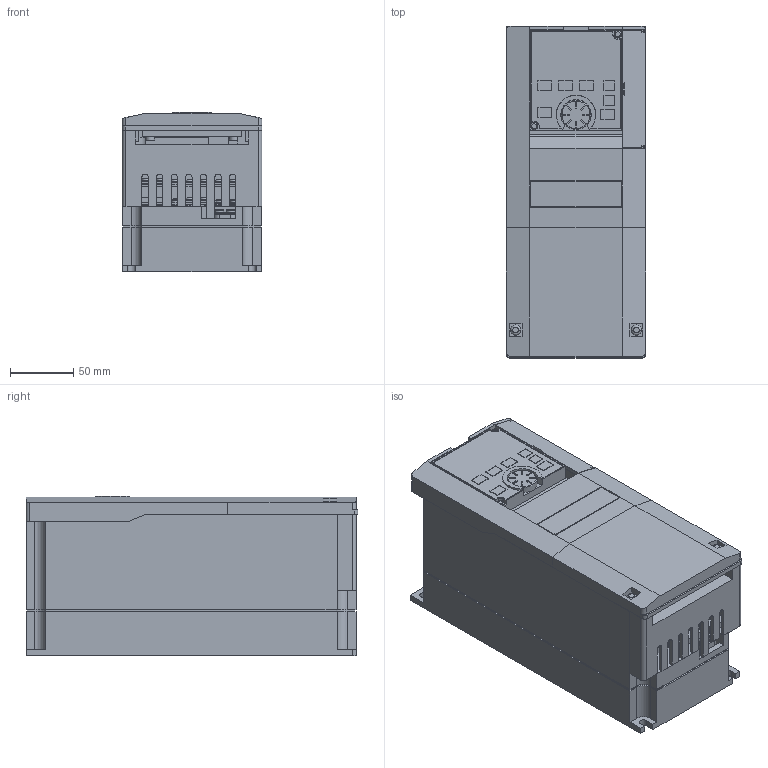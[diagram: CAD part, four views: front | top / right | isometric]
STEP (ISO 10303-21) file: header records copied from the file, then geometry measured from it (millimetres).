
FILE_DESCRIPTION((''),'2;1');
FILE_NAME('3D-INV-A8-01_02_ASM','2014-01-17T',('PZ79677'),(''),'PRO/ENGINEER BY PARAMETRIC TECHNOLOGY CORPORATION, 2011490','PRO/ENGINEER BY PARAMETRIC TECHNOLOGY CORPORATION, 2011490','');
FILE_SCHEMA(('CONFIG_CONTROL_DESIGN'));
Length unit declared in the file: millimetre
Products named in the file (19): 3D-BASE-A8-01_02; 3D-POWER-A8-01_02_ASM; 3D-SW-PW-P-NA-M4X8_; 3D-SHORT-R1S1-01_02_; 3D-SHORT-P1P-01_02_; 3D-SHORT-PRPX-01_02_; 3D-TE_NEJI-M4X8_; 3D-SW-PW-P-M3_5X6_; 3D-TE_COV-A8-01_02; 3D-TE-A8-01_02_ASM; 3D-TA-A8; 3D-A8-TA_ASM; 3D-SEN_COV-A8-01_02; 3D-COV_UPR-A8-01_02; 3D-DU_ASSY-A8; 3D-IF_COV-A80; 3D-COV_UPR-A8-01_02_ASM; 3D-COV_LWR-A8-01_02; 3D-INV-A8-01_02_ASM
Assembly tree (34 placements, depth 3):
  3D-INV-A8-01_02_ASM
    3D-POWER-A8-01_02_ASM
      3D-BASE-A8-01_02
    3D-SW-PW-P-NA-M4X8_  x2
    3D-TE-A8-01_02_ASM
      3D-SHORT-R1S1-01_02_  x2
      3D-SHORT-P1P-01_02_
      3D-SHORT-PRPX-01_02_
      3D-TE_NEJI-M4X8_  x12
      3D-SW-PW-P-M3_5X6_  x4
      3D-TE_COV-A8-01_02
    3D-A8-TA_ASM
      3D-TA-A8
    3D-SEN_COV-A8-01_02
    3D-COV_UPR-A8-01_02_ASM
      3D-COV_UPR-A8-01_02
      3D-DU_ASSY-A8
      3D-IF_COV-A80
    3D-COV_LWR-A8-01_02
Bounding box: 110 x 261.5 x 126 mm (x, y, z)
Volume: 2430705.2 mm3; surface area: 367000.2 mm2
Topology: 31 solids, 34 shells, 1780 faces, 4450 edges, 2899 vertices
Faces by surface type: plane 1354, cylinder 276, torus 56, cone 48, sphere 46
Entity records: 46522 total; most frequent: CARTESIAN_POINT 8142, ORIENTED_EDGE 7812, DIRECTION 7679, EDGE_CURVE 3906, VECTOR 3347, LINE 3347, VERTEX_POINT 2582, AXIS2_PLACEMENT_3D 2166
